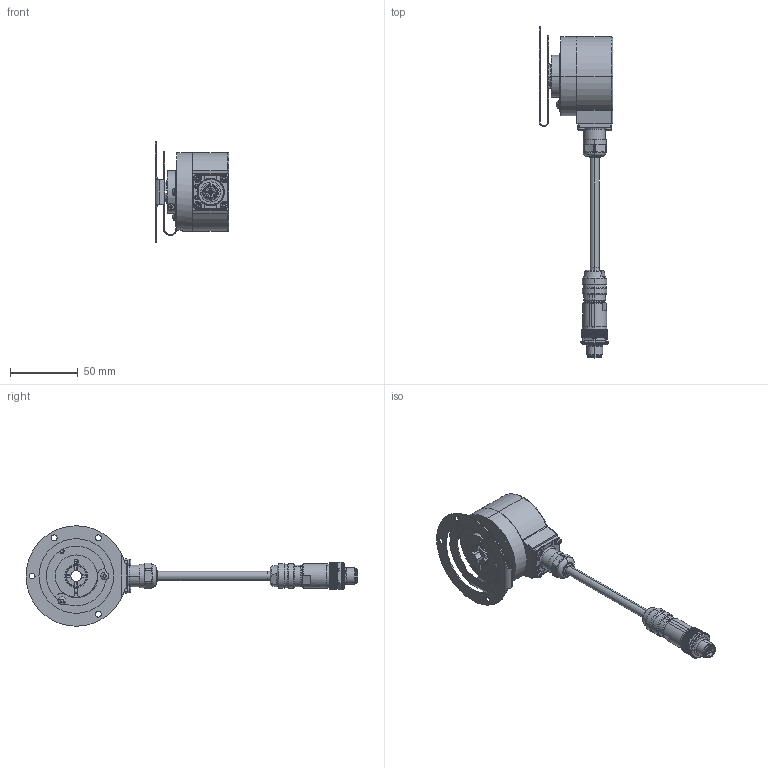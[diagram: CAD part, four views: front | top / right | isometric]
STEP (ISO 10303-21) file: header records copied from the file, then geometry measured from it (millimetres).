
FILE_DESCRIPTION (( 'STEP AP203' ), '1' );
FILE_NAME ('K58I.OXX.XXXXX.XH23508.6XR13.XXXX.step', '2025-12-08T14:39:56', ( '' ), ( '' ), 'SwSTEP 2.0', 'SolidWorks 2021', '' );
FILE_SCHEMA (( 'CONFIG_CONTROL_DESIGN' ));
Length unit declared in the file: millimetre
Products named in the file (1): K58I.OXX.XXXXX.XH23508.6XR13.XXXX
Bounding box: 54.39 x 244.49 x 74 mm (x, y, z)
Volume: 134105.5 mm3; surface area: 55495.8 mm2
Topology: 23 solids, 23 shells, 1745 faces, 4351 edges, 2681 vertices
Faces by surface type: cylinder 685, plane 607, cone 331, bspline 64, torus 42, sphere 16
Entity records: 55911 total; most frequent: CARTESIAN_POINT 15212, ORIENTED_EDGE 8650, DIRECTION 8444, EDGE_CURVE 4325, AXIS2_PLACEMENT_3D 3365, VERTEX_POINT 2679, EDGE_LOOP 1840, FACE_OUTER_BOUND 1745
